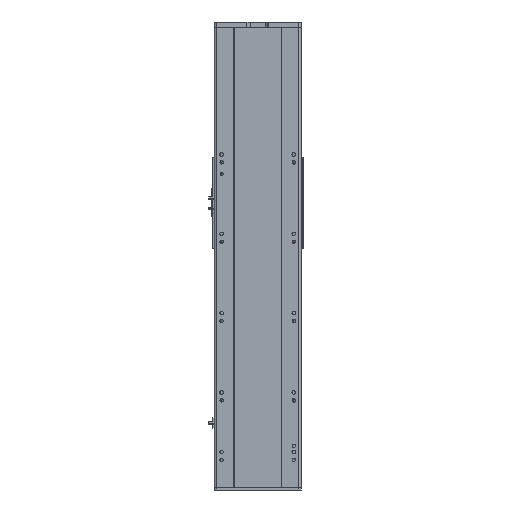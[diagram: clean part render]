
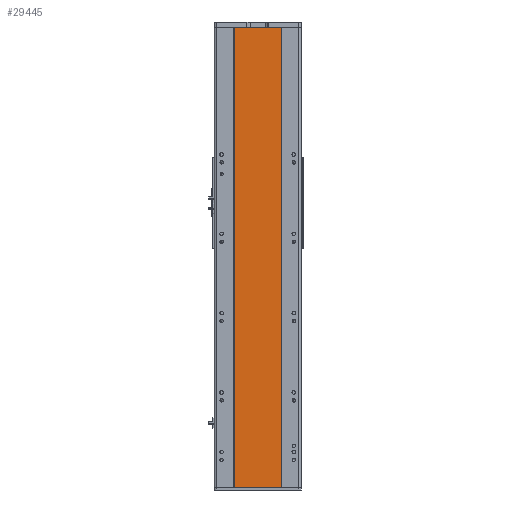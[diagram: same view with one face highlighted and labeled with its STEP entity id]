
A CAD part, front view. The second image highlights one B-rep face of the part: STEP entity #29445.
In plain terms, the highlighted planar face has unit normal (0, -1, 0).
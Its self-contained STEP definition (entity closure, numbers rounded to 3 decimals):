
#17 = DIRECTION ( 'NONE',  ( 0., 1., 0. ) ) ;
#124 = DIRECTION ( 'NONE',  ( 0., 0., -1. ) ) ;
#222 = ORIENTED_EDGE ( 'NONE', *, *, #1126, .T. ) ;
#1126 = EDGE_CURVE ( 'NONE', #26440, #36091, #36283, .T. ) ;
#3689 = EDGE_LOOP ( 'NONE', ( #222, #25789, #34655, #7768 ) ) ;
#4073 = LINE ( 'NONE', #26159, #10376 ) ;
#5514 = CARTESIAN_POINT ( 'NONE',  ( 59., 1., -580.5 ) ) ;
#5753 = CARTESIAN_POINT ( 'NONE',  ( -59., 1., 580.5 ) ) ;
#6287 = VECTOR ( 'NONE', #124, 1000. ) ;
#6310 = LINE ( 'NONE', #5753, #19286 ) ;
#7768 = ORIENTED_EDGE ( 'NONE', *, *, #14278, .T. ) ;
#9747 = DIRECTION ( 'NONE',  ( 1., 0., 0. ) ) ;
#10376 = VECTOR ( 'NONE', #25781, 1000. ) ;
#11216 = FACE_OUTER_BOUND ( 'NONE', #3689, .T. ) ;
#11576 = DIRECTION ( 'NONE',  ( -1., 0., 0. ) ) ;
#14278 = EDGE_CURVE ( 'NONE', #28803, #26440, #22370, .T. ) ;
#16614 = VECTOR ( 'NONE', #9747, 1000. ) ;
#17196 = VERTEX_POINT ( 'NONE', #20182 ) ;
#19286 = VECTOR ( 'NONE', #37184, 1000. ) ;
#20182 = CARTESIAN_POINT ( 'NONE',  ( 59., 1., 580.5 ) ) ;
#22370 = LINE ( 'NONE', #31463, #6287 ) ;
#23064 = CARTESIAN_POINT ( 'NONE',  ( -59., 1., 580.5 ) ) ;
#23152 = CARTESIAN_POINT ( 'NONE',  ( -59., 1., -580.5 ) ) ;
#24920 = AXIS2_PLACEMENT_3D ( 'NONE', #23064, #17, #11576 ) ;
#25781 = DIRECTION ( 'NONE',  ( 0., 0., -1. ) ) ;
#25789 = ORIENTED_EDGE ( 'NONE', *, *, #34729, .F. ) ;
#26159 = CARTESIAN_POINT ( 'NONE',  ( 59., 1., 580.5 ) ) ;
#26440 = VERTEX_POINT ( 'NONE', #23152 ) ;
#28773 = CARTESIAN_POINT ( 'NONE',  ( -59., 1., 580.5 ) ) ;
#28803 = VERTEX_POINT ( 'NONE', #28773 ) ;
#29445 = ADVANCED_FACE ( 'NONE', ( #11216 ), #31484, .F. ) ;
#31463 = CARTESIAN_POINT ( 'NONE',  ( -59., 1., 580.5 ) ) ;
#31484 = PLANE ( 'NONE',  #24920 ) ;
#32546 = EDGE_CURVE ( 'NONE', #28803, #17196, #6310, .T. ) ;
#32873 = CARTESIAN_POINT ( 'NONE',  ( -59., 1., -580.5 ) ) ;
#34655 = ORIENTED_EDGE ( 'NONE', *, *, #32546, .F. ) ;
#34729 = EDGE_CURVE ( 'NONE', #17196, #36091, #4073, .T. ) ;
#36091 = VERTEX_POINT ( 'NONE', #5514 ) ;
#36283 = LINE ( 'NONE', #32873, #16614 ) ;
#37184 = DIRECTION ( 'NONE',  ( 1., 0., 0. ) ) ;
